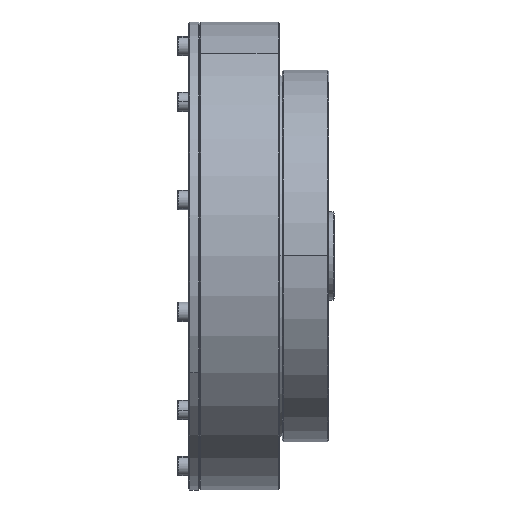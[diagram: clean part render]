
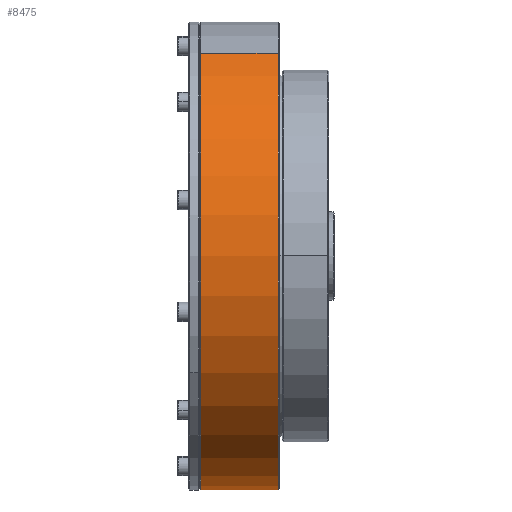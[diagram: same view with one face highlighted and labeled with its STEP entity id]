
A CAD part, top view. The second image highlights one B-rep face of the part: STEP entity #8475.
In plain terms, the highlighted cylindrical face has radius 85 mm (diameter 170 mm), a partial arc.
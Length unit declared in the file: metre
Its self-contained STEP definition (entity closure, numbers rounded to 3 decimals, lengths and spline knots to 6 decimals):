
#1081 = CARTESIAN_POINT ( 'NONE',  ( -0.0188, 0.073612, 0.0425 ) ) ;
#3947 = CIRCLE ( 'NONE', #8276, 0.085 ) ;
#5282 = VERTEX_POINT ( 'NONE', #1081 ) ;
#5804 = LINE ( 'NONE', #10383, #32181 ) ;
#6501 = CARTESIAN_POINT ( 'NONE',  ( 0.0092, -0.073612, -0.0425 ) ) ;
#8276 = AXIS2_PLACEMENT_3D ( 'NONE', #10262, #15027, #23497 ) ;
#8475 = ADVANCED_FACE ( 'NONE', ( #32152 ), #14845, .T. ) ;
#10262 = CARTESIAN_POINT ( 'NONE',  ( 0.0092, 0., 0. ) ) ;
#10383 = CARTESIAN_POINT ( 'NONE',  ( 0.032166, 0.073612, 0.0425 ) ) ;
#10740 = CARTESIAN_POINT ( 'NONE',  ( 0.0092, 0.073612, 0.0425 ) ) ;
#11244 = ORIENTED_EDGE ( 'NONE', *, *, #31996, .F. ) ;
#11332 = LINE ( 'NONE', #14039, #22413 ) ;
#12669 = ORIENTED_EDGE ( 'NONE', *, *, #18252, .T. ) ;
#13882 = DIRECTION ( 'NONE',  ( 1., 0., 0. ) ) ;
#14039 = CARTESIAN_POINT ( 'NONE',  ( 0.032166, -0.073612, -0.0425 ) ) ;
#14521 = AXIS2_PLACEMENT_3D ( 'NONE', #32971, #20113, #25180 ) ;
#14845 = CYLINDRICAL_SURFACE ( 'NONE', #14521, 0.085 ) ;
#14882 = EDGE_CURVE ( 'NONE', #5282, #16123, #21064, .T. ) ;
#15027 = DIRECTION ( 'NONE',  ( -1., 0., 0. ) ) ;
#16123 = VERTEX_POINT ( 'NONE', #19873 ) ;
#17655 = EDGE_CURVE ( 'NONE', #26082, #28497, #3947, .T. ) ;
#17833 = AXIS2_PLACEMENT_3D ( 'NONE', #31440, #29072, #23480 ) ;
#18109 = ORIENTED_EDGE ( 'NONE', *, *, #17655, .T. ) ;
#18252 = EDGE_CURVE ( 'NONE', #16123, #26082, #11332, .T. ) ;
#19873 = CARTESIAN_POINT ( 'NONE',  ( -0.0188, -0.073612, -0.0425 ) ) ;
#20113 = DIRECTION ( 'NONE',  ( 1., 0., 0. ) ) ;
#21064 = CIRCLE ( 'NONE', #17833, 0.085 ) ;
#22403 = EDGE_LOOP ( 'NONE', ( #28744, #12669, #18109, #11244 ) ) ;
#22413 = VECTOR ( 'NONE', #13882, 1. ) ;
#23480 = DIRECTION ( 'NONE',  ( 0., 0.866, 0.5 ) ) ;
#23497 = DIRECTION ( 'NONE',  ( 0., 0.866, 0.5 ) ) ;
#25180 = DIRECTION ( 'NONE',  ( 0., 0.866, 0.5 ) ) ;
#26082 = VERTEX_POINT ( 'NONE', #6501 ) ;
#28497 = VERTEX_POINT ( 'NONE', #10740 ) ;
#28744 = ORIENTED_EDGE ( 'NONE', *, *, #14882, .T. ) ;
#29072 = DIRECTION ( 'NONE',  ( 1., 0., 0. ) ) ;
#31066 = DIRECTION ( 'NONE',  ( 1., 0., 0. ) ) ;
#31440 = CARTESIAN_POINT ( 'NONE',  ( -0.0188, 0., 0. ) ) ;
#31996 = EDGE_CURVE ( 'NONE', #5282, #28497, #5804, .T. ) ;
#32152 = FACE_OUTER_BOUND ( 'NONE', #22403, .T. ) ;
#32181 = VECTOR ( 'NONE', #31066, 1. ) ;
#32971 = CARTESIAN_POINT ( 'NONE',  ( 0.032166, 0., 0. ) ) ;
